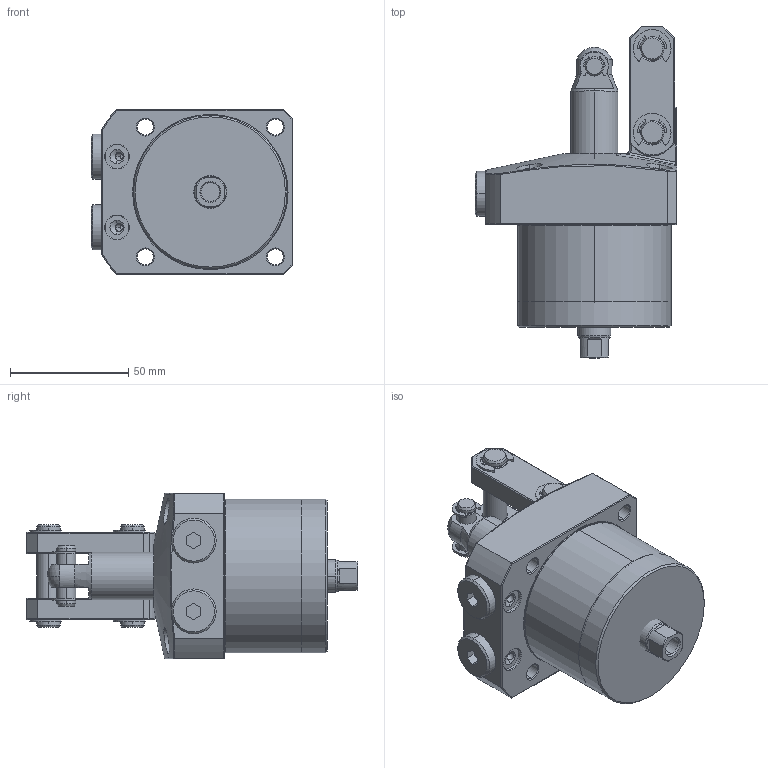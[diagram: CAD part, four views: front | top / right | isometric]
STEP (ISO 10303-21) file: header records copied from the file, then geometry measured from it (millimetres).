
FILE_DESCRIPTION(/* description */ (''),/* implementation_level */ '2;1');
FILE_NAME(/* name */ 'KTPC65-FD.stp',/* time_stamp */ '2022-11-19T08:08:30+08:00',/* author */ (''),/* organization */ (''),/* preprocessor_version */ 'ST-DEVELOPER v16.7',/* originating_system */ 'SIEMENS PLM Software NX 12.0',/* authorisation */ '');
FILE_SCHEMA (('AP203_CONFIGURATION_CONTROLLED_3D_DESIGN_OF_MECHANICAL_PARTS_AND_ASSEMBLIES_MIM_LF { 1 0 10303 403 2 1 2}'));
Length unit declared in the file: millimetre
Products named in the file (10): KTPC65-FD-06; KTPC65-FD-02; KTPC65-FD-08; KTPC65-FD-03; KTPC65-FD-01; KTPC65-FD-04; KTPC65-FD-05; KTPC65-FD-09; KTPC65-FD-07; LKA0650-CCD_step
Assembly tree (16 placements, depth 2):
  LKA0650-CCD_step
    KTPC65-FD-07
    KTPC65-FD-09  x4
    KTPC65-FD-05  x2
    KTPC65-FD-04  x2
    KTPC65-FD-01
    KTPC65-FD-03
    KTPC65-FD-08  x2
    KTPC65-FD-02
    KTPC65-FD-06  x2
Bounding box: 85.5 x 140.5 x 70 mm (x, y, z)
Volume: 442142.7 mm3; surface area: 65994.9 mm2
Topology: 16 solids, 16 shells, 588 faces, 1410 edges, 881 vertices
Faces by surface type: cylinder 240, plane 185, cone 78, torus 64, bspline 19, sphere 2
Full cylindrical faces by diameter (mm): 65 x1
Entity records: 13470 total; most frequent: CARTESIAN_POINT 3347, DIRECTION 1922, ORIENTED_EDGE 1776, EDGE_CURVE 888, AXIS2_PLACEMENT_3D 777, VERTEX_POINT 551, EDGE_LOOP 427, CIRCLE 398
